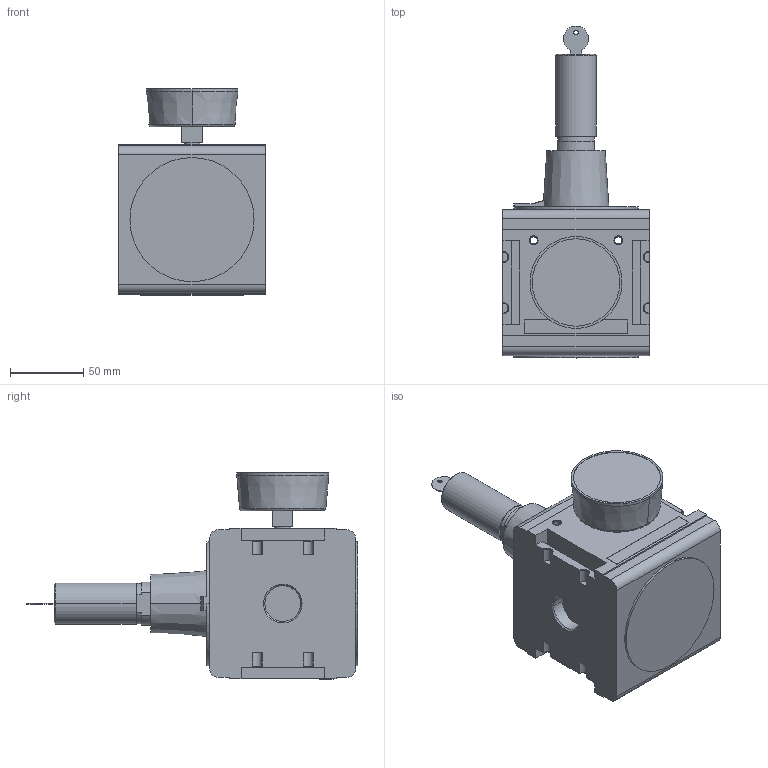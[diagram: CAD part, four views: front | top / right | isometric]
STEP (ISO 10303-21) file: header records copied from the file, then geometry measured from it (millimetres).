
FILE_DESCRIPTION((''),'2;1');
FILE_NAME('0821302807_ASM','2019-03-15T',('GIO1HC'),(''),'CREO PARAMETRIC BY PTC INC, 2016260','CREO PARAMETRIC BY PTC INC, 2016260','');
FILE_SCHEMA(('CONFIG_CONTROL_DESIGN'));
Length unit declared in the file: millimetre
Products named in the file (3): 0821302807-A; 1827231011; 0821302807_ASM
Assembly tree (2 placements, depth 2):
  0821302807_ASM
    0821302807-A
    1827231011
Bounding box: 100 x 227.28 x 141.2 mm (x, y, z)
Volume: 1171371.5 mm3; surface area: 94148.7 mm2
Topology: 2 solids, 2 shells, 192 faces, 479 edges, 310 vertices
Faces by surface type: plane 90, cylinder 65, cone 35, torus 2
Entity records: 5867 total; most frequent: DIRECTION 1042, CARTESIAN_POINT 1006, ORIENTED_EDGE 958, EDGE_CURVE 479, AXIS2_PLACEMENT_3D 370, VERTEX_POINT 310, VECTOR 302, LINE 302
